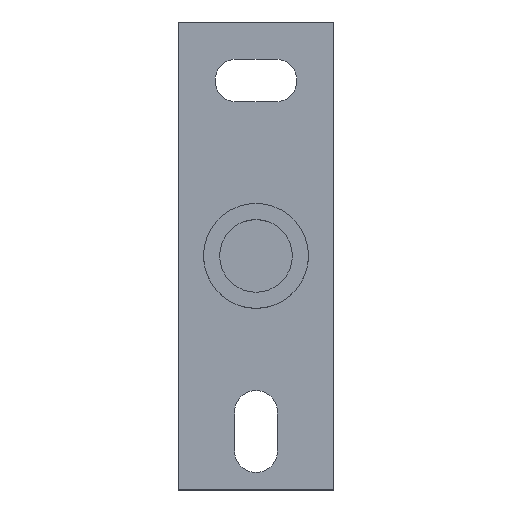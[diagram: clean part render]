
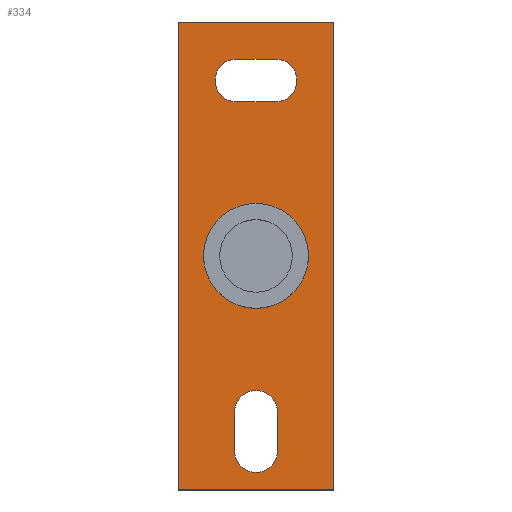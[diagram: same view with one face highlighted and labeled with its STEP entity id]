
A CAD part, top view. The second image highlights one B-rep face of the part: STEP entity #334.
In plain terms, the highlighted planar face has unit normal (0, 0, 1).
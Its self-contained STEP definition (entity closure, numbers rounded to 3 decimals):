
#19=FACE_BOUND($,#72,.T.);
#20=FACE_BOUND($,#73,.T.);
#21=FACE_BOUND($,#74,.T.);
#22=FACE_BOUND($,#75,.T.);
#34=PLANE($,#367);
#72=EDGE_LOOP($,(#279,#280,#281,#282));
#73=EDGE_LOOP($,(#283,#284,#285,#286));
#74=EDGE_LOOP($,(#287));
#75=EDGE_LOOP($,(#288,#289,#290,#291));
#78=LINE($,#470,#106);
#82=LINE($,#481,#110);
#86=LINE($,#494,#114);
#90=LINE($,#505,#118);
#94=LINE($,#526,#122);
#97=LINE($,#532,#125);
#100=LINE($,#538,#128);
#103=LINE($,#542,#131);
#106=VECTOR($,#380,10.);
#110=VECTOR($,#392,10.);
#114=VECTOR($,#404,10.);
#118=VECTOR($,#416,10.);
#122=VECTOR($,#438,120.);
#125=VECTOR($,#443,40.);
#128=VECTOR($,#448,120.);
#131=VECTOR($,#453,40.);
#132=CIRCLE($,#339,5.5);
#134=CIRCLE($,#343,5.5);
#136=CIRCLE($,#347,5.5);
#138=CIRCLE($,#351,5.5);
#143=CIRCLE($,#360,13.45);
#144=VERTEX_POINT($,#460);
#145=VERTEX_POINT($,#461);
#148=VERTEX_POINT($,#469);
#150=VERTEX_POINT($,#475);
#152=VERTEX_POINT($,#484);
#153=VERTEX_POINT($,#485);
#156=VERTEX_POINT($,#493);
#158=VERTEX_POINT($,#499);
#163=VERTEX_POINT($,#516);
#166=VERTEX_POINT($,#523);
#167=VERTEX_POINT($,#525);
#169=VERTEX_POINT($,#531);
#171=VERTEX_POINT($,#537);
#172=EDGE_CURVE($,#144,#145,#132,.T.);
#176=EDGE_CURVE($,#148,#144,#78,.T.);
#179=EDGE_CURVE($,#150,#148,#134,.T.);
#182=EDGE_CURVE($,#145,#150,#82,.T.);
#184=EDGE_CURVE($,#152,#153,#136,.T.);
#188=EDGE_CURVE($,#156,#152,#86,.T.);
#191=EDGE_CURVE($,#158,#156,#138,.T.);
#194=EDGE_CURVE($,#153,#158,#90,.T.);
#199=EDGE_CURVE($,#163,#163,#143,.T.);
#202=EDGE_CURVE($,#167,#166,#94,.T.);
#205=EDGE_CURVE($,#169,#167,#97,.T.);
#208=EDGE_CURVE($,#171,#169,#100,.T.);
#211=EDGE_CURVE($,#166,#171,#103,.T.);
#279=ORIENTED_EDGE($,*,*,#172,.T.);
#280=ORIENTED_EDGE($,*,*,#182,.T.);
#281=ORIENTED_EDGE($,*,*,#179,.T.);
#282=ORIENTED_EDGE($,*,*,#176,.T.);
#283=ORIENTED_EDGE($,*,*,#184,.T.);
#284=ORIENTED_EDGE($,*,*,#194,.T.);
#285=ORIENTED_EDGE($,*,*,#191,.T.);
#286=ORIENTED_EDGE($,*,*,#188,.T.);
#287=ORIENTED_EDGE($,*,*,#199,.T.);
#288=ORIENTED_EDGE($,*,*,#211,.T.);
#289=ORIENTED_EDGE($,*,*,#208,.T.);
#290=ORIENTED_EDGE($,*,*,#205,.T.);
#291=ORIENTED_EDGE($,*,*,#202,.T.);
#334=ADVANCED_FACE($,(#19,#20,#21,#22),#34,.T.);
#339=AXIS2_PLACEMENT_3D($,#462,#372,#373);
#343=AXIS2_PLACEMENT_3D($,#476,#385,#386);
#347=AXIS2_PLACEMENT_3D($,#486,#396,#397);
#351=AXIS2_PLACEMENT_3D($,#500,#409,#410);
#360=AXIS2_PLACEMENT_3D($,#517,#430,#431);
#367=AXIS2_PLACEMENT_3D($,#544,#456,#457);
#372=DIRECTION('center_axis',(0.,0.,-1.));
#373=DIRECTION('ref_axis',(0.,-1.,0.));
#380=DIRECTION($,(-1.,0.,0.));
#385=DIRECTION('center_axis',(0.,0.,-1.));
#386=DIRECTION('ref_axis',(0.,1.,0.));
#392=DIRECTION($,(1.,0.,0.));
#396=DIRECTION('center_axis',(0.,0.,-1.));
#397=DIRECTION('ref_axis',(1.,0.,0.));
#404=DIRECTION($,(0.,-1.,0.));
#409=DIRECTION('center_axis',(0.,0.,-1.));
#410=DIRECTION('ref_axis',(-1.,0.,0.));
#416=DIRECTION($,(0.,1.,0.));
#430=DIRECTION('center_axis',(0.,0.,-1.));
#431=DIRECTION('ref_axis',(-1.,0.,0.));
#438=DIRECTION($,(0.,-1.,0.));
#443=DIRECTION($,(-1.,0.,0.));
#448=DIRECTION($,(0.,1.,0.));
#453=DIRECTION($,(1.,0.,0.));
#456=DIRECTION('center_axis',(0.,0.,1.));
#457=DIRECTION('ref_axis',(1.,0.,0.));
#460=CARTESIAN_POINT('',(-5.,39.5,6.));
#461=CARTESIAN_POINT('',(-5.,50.5,6.));
#462=CARTESIAN_POINT('Origin',(-5.,45.,6.));
#469=CARTESIAN_POINT('',(5.,39.5,6.));
#470=CARTESIAN_POINT($,(2.5,39.5,6.));
#475=CARTESIAN_POINT('',(5.,50.5,6.));
#476=CARTESIAN_POINT('Origin',(5.,45.,6.));
#481=CARTESIAN_POINT($,(-2.5,50.5,6.));
#484=CARTESIAN_POINT('',(5.5,-50.,6.));
#485=CARTESIAN_POINT('',(-5.5,-50.,6.));
#486=CARTESIAN_POINT('Origin',(0.,-50.,6.));
#493=CARTESIAN_POINT('',(5.5,-40.,6.));
#494=CARTESIAN_POINT($,(5.5,-20.,6.));
#499=CARTESIAN_POINT('',(-5.5,-40.,6.));
#500=CARTESIAN_POINT('Origin',(0.,-40.,6.));
#505=CARTESIAN_POINT($,(-5.5,-25.,6.));
#516=CARTESIAN_POINT('',(13.45,0.,6.));
#517=CARTESIAN_POINT('Origin',(0.,0.,6.));
#523=CARTESIAN_POINT('',(-20.,-60.,6.));
#525=CARTESIAN_POINT('',(-20.,60.,6.));
#526=CARTESIAN_POINT($,(-20.,-60.,6.));
#531=CARTESIAN_POINT('',(20.,60.,6.));
#532=CARTESIAN_POINT($,(-20.,60.,6.));
#537=CARTESIAN_POINT('',(20.,-60.,6.));
#538=CARTESIAN_POINT($,(20.,60.,6.));
#542=CARTESIAN_POINT($,(20.,-60.,6.));
#544=CARTESIAN_POINT('Origin',(0.,0.,6.));
